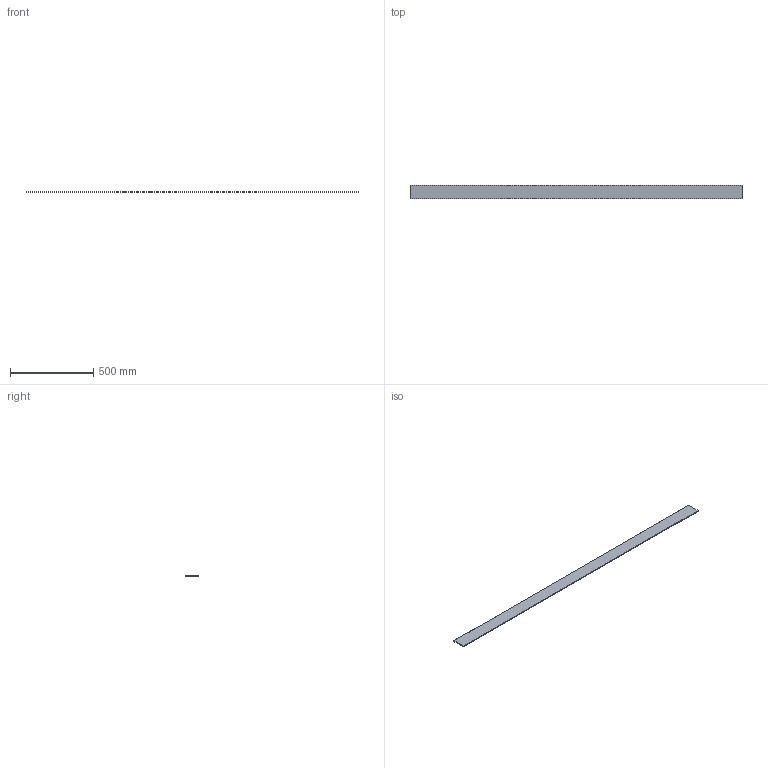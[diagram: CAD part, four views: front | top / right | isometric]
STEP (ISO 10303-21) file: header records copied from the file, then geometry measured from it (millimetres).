
FILE_DESCRIPTION (( 'STEP AP214' ), '1' );
FILE_NAME ('04538.STEP', '2014-03-17T12:20:21', ( '' ), ( '' ), 'SwSTEP 2.0', 'SolidWorks 2013', '' );
FILE_SCHEMA (( 'AUTOMOTIVE_DESIGN' ));
Length unit declared in the file: millimetre
Products named in the file (1): 04538
Bounding box: 2000 x 80 x 5 mm (x, y, z)
Volume: 799892.7 mm3; surface area: 339941.5 mm2
Topology: 1 solids, 1 shells, 10 faces, 24 edges, 16 vertices
Faces by surface type: plane 6, cylinder 4
Entity records: 330 total; most frequent: DIRECTION 54, CARTESIAN_POINT 51, ORIENTED_EDGE 48, EDGE_CURVE 24, AXIS2_PLACEMENT_3D 19, VERTEX_POINT 16, LINE 16, VECTOR 16
